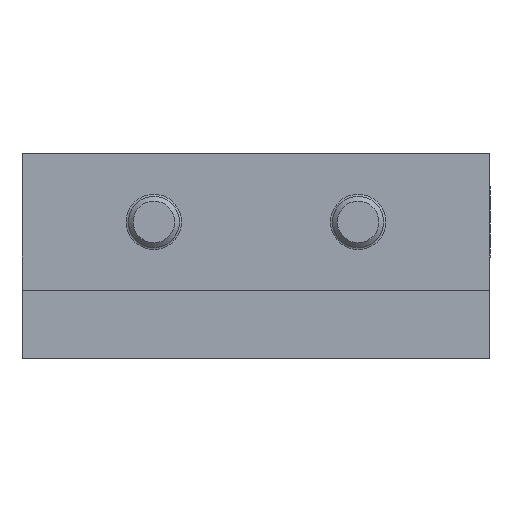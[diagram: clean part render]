
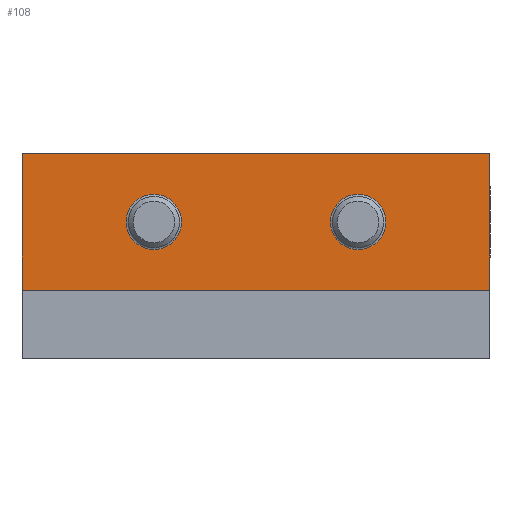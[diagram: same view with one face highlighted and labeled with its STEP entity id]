
A CAD part, front view. The second image highlights one B-rep face of the part: STEP entity #108.
In plain terms, the highlighted planar face has unit normal (0, -1, 0).
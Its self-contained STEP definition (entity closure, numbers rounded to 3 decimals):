
#24 = VECTOR ( 'NONE', #980, 1000. ) ;
#27 = ORIENTED_EDGE ( 'NONE', *, *, #1997, .F. ) ;
#75 = EDGE_CURVE ( 'NONE', #1838, #1838, #1236, .T. ) ;
#77 = CARTESIAN_POINT ( 'NONE',  ( -27.5, 0., 8. ) ) ;
#108 = ADVANCED_FACE ( 'NONE', ( #139, #1140, #2472 ), #731, .F. ) ;
#139 = FACE_BOUND ( 'NONE', #1497, .T. ) ;
#158 = CARTESIAN_POINT ( 'NONE',  ( 12., 0., 3.25 ) ) ;
#253 = AXIS2_PLACEMENT_3D ( 'NONE', #1098, #2501, #1668 ) ;
#265 = CARTESIAN_POINT ( 'NONE',  ( 27.5, 0., 8. ) ) ;
#277 = LINE ( 'NONE', #77, #1835 ) ;
#365 = EDGE_LOOP ( 'NONE', ( #615, #2026, #2056, #27 ) ) ;
#430 = DIRECTION ( 'NONE',  ( 0., 0., -1. ) ) ;
#456 = CARTESIAN_POINT ( 'NONE',  ( -12., 0., 3.25 ) ) ;
#536 = EDGE_CURVE ( 'NONE', #1529, #2147, #277, .T. ) ;
#606 = EDGE_LOOP ( 'NONE', ( #1420 ) ) ;
#615 = ORIENTED_EDGE ( 'NONE', *, *, #536, .F. ) ;
#623 = CARTESIAN_POINT ( 'NONE',  ( -27.5, 0., 10. ) ) ;
#633 = VERTEX_POINT ( 'NONE', #2075 ) ;
#654 = DIRECTION ( 'NONE',  ( 1., 0., 0. ) ) ;
#731 = PLANE ( 'NONE',  #253 ) ;
#732 = DIRECTION ( 'NONE',  ( 0., 1., 0. ) ) ;
#743 = CARTESIAN_POINT ( 'NONE',  ( -27.5, 0., -8. ) ) ;
#761 = VECTOR ( 'NONE', #430, 1000. ) ;
#791 = EDGE_CURVE ( 'NONE', #2220, #633, #1258, .T. ) ;
#855 = DIRECTION ( 'NONE',  ( 1., 0., 0. ) ) ;
#958 = AXIS2_PLACEMENT_3D ( 'NONE', #2043, #1846, #2019 ) ;
#980 = DIRECTION ( 'NONE',  ( 0., 0., -1. ) ) ;
#1098 = CARTESIAN_POINT ( 'NONE',  ( 27.5, 0., 10. ) ) ;
#1121 = VERTEX_POINT ( 'NONE', #158 ) ;
#1140 = FACE_BOUND ( 'NONE', #606, .T. ) ;
#1236 = CIRCLE ( 'NONE', #958, 3.25 ) ;
#1258 = LINE ( 'NONE', #1428, #1437 ) ;
#1299 = ORIENTED_EDGE ( 'NONE', *, *, #1946, .T. ) ;
#1403 = AXIS2_PLACEMENT_3D ( 'NONE', #2473, #732, #2486 ) ;
#1415 = CARTESIAN_POINT ( 'NONE',  ( -27.5, 0., 8. ) ) ;
#1420 = ORIENTED_EDGE ( 'NONE', *, *, #75, .T. ) ;
#1428 = CARTESIAN_POINT ( 'NONE',  ( -27.5, 0., -8. ) ) ;
#1437 = VECTOR ( 'NONE', #654, 1000. ) ;
#1497 = EDGE_LOOP ( 'NONE', ( #1299 ) ) ;
#1529 = VERTEX_POINT ( 'NONE', #1415 ) ;
#1534 = CIRCLE ( 'NONE', #1403, 3.25 ) ;
#1668 = DIRECTION ( 'NONE',  ( 0., 0., 1. ) ) ;
#1776 = CARTESIAN_POINT ( 'NONE',  ( 27.5, 0., 10. ) ) ;
#1785 = LINE ( 'NONE', #1776, #24 ) ;
#1835 = VECTOR ( 'NONE', #855, 1000. ) ;
#1838 = VERTEX_POINT ( 'NONE', #456 ) ;
#1846 = DIRECTION ( 'NONE',  ( 0., 1., 0. ) ) ;
#1946 = EDGE_CURVE ( 'NONE', #1121, #1121, #1534, .T. ) ;
#1958 = LINE ( 'NONE', #623, #761 ) ;
#1997 = EDGE_CURVE ( 'NONE', #2147, #633, #1785, .T. ) ;
#2019 = DIRECTION ( 'NONE',  ( 0., 0., 1. ) ) ;
#2026 = ORIENTED_EDGE ( 'NONE', *, *, #2029, .T. ) ;
#2029 = EDGE_CURVE ( 'NONE', #1529, #2220, #1958, .T. ) ;
#2043 = CARTESIAN_POINT ( 'NONE',  ( -12., 0., 0. ) ) ;
#2056 = ORIENTED_EDGE ( 'NONE', *, *, #791, .T. ) ;
#2075 = CARTESIAN_POINT ( 'NONE',  ( 27.5, 0., -8. ) ) ;
#2147 = VERTEX_POINT ( 'NONE', #265 ) ;
#2220 = VERTEX_POINT ( 'NONE', #743 ) ;
#2472 = FACE_OUTER_BOUND ( 'NONE', #365, .T. ) ;
#2473 = CARTESIAN_POINT ( 'NONE',  ( 12., 0., 0. ) ) ;
#2486 = DIRECTION ( 'NONE',  ( 0., 0., 1. ) ) ;
#2501 = DIRECTION ( 'NONE',  ( 0., 1., 0. ) ) ;
